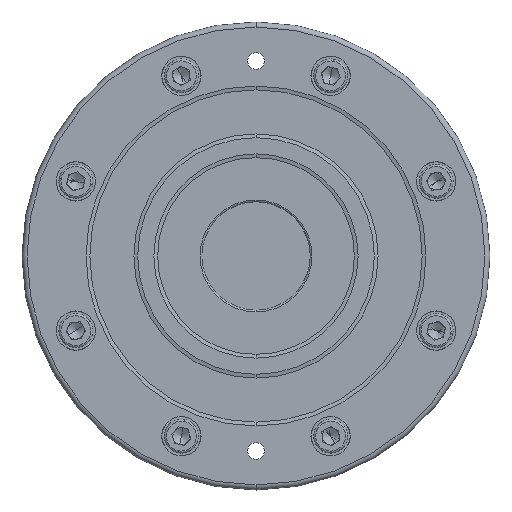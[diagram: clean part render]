
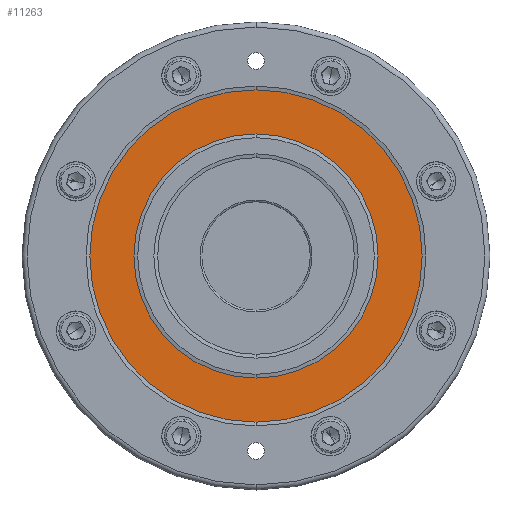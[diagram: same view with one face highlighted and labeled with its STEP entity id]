
A CAD part, front view. The second image highlights one B-rep face of the part: STEP entity #11263.
In plain terms, the highlighted planar face has unit normal (0, -1, 0).
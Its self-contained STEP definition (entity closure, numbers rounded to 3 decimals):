
#880 = DIRECTION ( 'NONE',  ( 0., 0., 1. ) ) ;
#1295 = CARTESIAN_POINT ( 'NONE',  ( 30.459, 10.736, 102. ) ) ;
#1593 = CARTESIAN_POINT ( 'NONE',  ( -18.541, 10.736, 138. ) ) ;
#1706 = VERTEX_POINT ( 'NONE', #1976 ) ;
#1714 = CIRCLE ( 'NONE', #9755, 49. ) ;
#1792 = DIRECTION ( 'NONE',  ( 0., 1., 0. ) ) ;
#1976 = CARTESIAN_POINT ( 'NONE',  ( 30.459, 10.736, 89. ) ) ;
#2213 = DIRECTION ( 'NONE',  ( 0., 1., 0. ) ) ;
#2493 = FACE_OUTER_BOUND ( 'NONE', #7581, .T. ) ;
#2853 = DIRECTION ( 'NONE',  ( 0., 0., -1. ) ) ;
#4503 = VERTEX_POINT ( 'NONE', #1295 ) ;
#5303 = CIRCLE ( 'NONE', #12592, 36. ) ;
#5308 = PLANE ( 'NONE',  #9943 ) ;
#5842 = FACE_BOUND ( 'NONE', #7150, .T. ) ;
#6108 = AXIS2_PLACEMENT_3D ( 'NONE', #9282, #1792, #10501 ) ;
#6218 = ORIENTED_EDGE ( 'NONE', *, *, #8163, .F. ) ;
#6378 = VERTEX_POINT ( 'NONE', #8056 ) ;
#6708 = CARTESIAN_POINT ( 'NONE',  ( 30.459, 10.736, 138. ) ) ;
#6933 = AXIS2_PLACEMENT_3D ( 'NONE', #6708, #15185, #7967 ) ;
#7150 = EDGE_LOOP ( 'NONE', ( #10675, #9563 ) ) ;
#7312 = EDGE_CURVE ( 'NONE', #10263, #4503, #8951, .T. ) ;
#7581 = EDGE_LOOP ( 'NONE', ( #6218, #8746 ) ) ;
#7967 = DIRECTION ( 'NONE',  ( 0., 0., 1. ) ) ;
#7985 = CARTESIAN_POINT ( 'NONE',  ( 30.459, 10.736, 174. ) ) ;
#8056 = CARTESIAN_POINT ( 'NONE',  ( 30.459, 10.736, 187. ) ) ;
#8163 = EDGE_CURVE ( 'NONE', #1706, #6378, #1714, .T. ) ;
#8403 = DIRECTION ( 'NONE',  ( 0., 1., 0. ) ) ;
#8674 = CIRCLE ( 'NONE', #6108, 49. ) ;
#8746 = ORIENTED_EDGE ( 'NONE', *, *, #9494, .F. ) ;
#8951 = CIRCLE ( 'NONE', #6933, 36. ) ;
#9282 = CARTESIAN_POINT ( 'NONE',  ( 30.459, 10.736, 138. ) ) ;
#9494 = EDGE_CURVE ( 'NONE', #6378, #1706, #8674, .T. ) ;
#9563 = ORIENTED_EDGE ( 'NONE', *, *, #10506, .T. ) ;
#9711 = CARTESIAN_POINT ( 'NONE',  ( 30.459, 10.736, 138. ) ) ;
#9755 = AXIS2_PLACEMENT_3D ( 'NONE', #9711, #2213, #10917 ) ;
#9943 = AXIS2_PLACEMENT_3D ( 'NONE', #1593, #10322, #2853 ) ;
#10263 = VERTEX_POINT ( 'NONE', #7985 ) ;
#10322 = DIRECTION ( 'NONE',  ( 0., -1., 0. ) ) ;
#10501 = DIRECTION ( 'NONE',  ( 0., 0., 1. ) ) ;
#10506 = EDGE_CURVE ( 'NONE', #4503, #10263, #5303, .T. ) ;
#10675 = ORIENTED_EDGE ( 'NONE', *, *, #7312, .T. ) ;
#10917 = DIRECTION ( 'NONE',  ( 0., 0., 1. ) ) ;
#11263 = ADVANCED_FACE ( 'NONE', ( #5842, #2493 ), #5308, .T. ) ;
#12592 = AXIS2_PLACEMENT_3D ( 'NONE', #15614, #8403, #880 ) ;
#15185 = DIRECTION ( 'NONE',  ( 0., 1., 0. ) ) ;
#15614 = CARTESIAN_POINT ( 'NONE',  ( 30.459, 10.736, 138. ) ) ;
